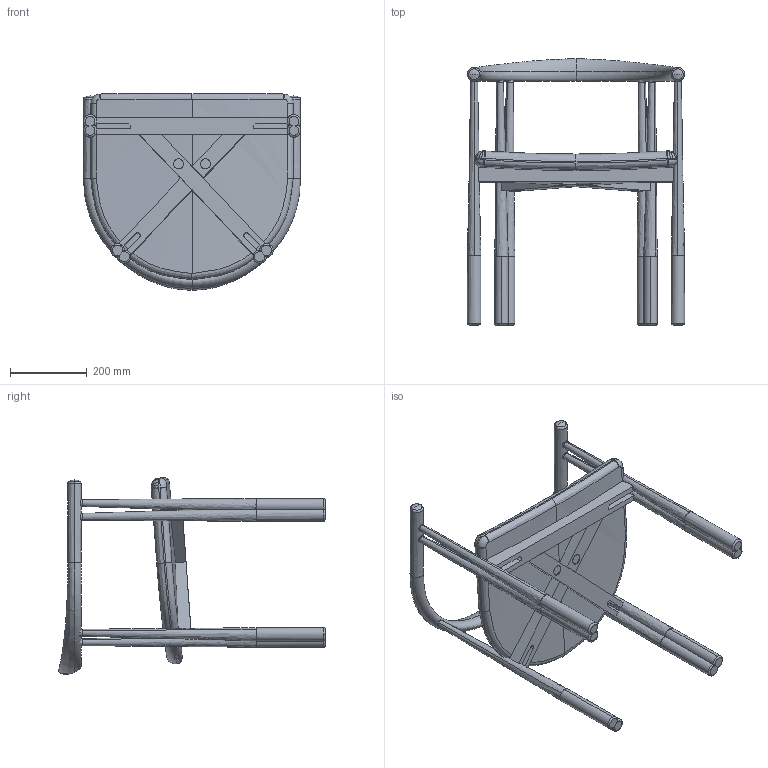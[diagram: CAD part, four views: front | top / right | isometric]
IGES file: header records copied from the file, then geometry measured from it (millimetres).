
Start section: SolidWorks IGES file using analytic representation for surfaces
Global section: file name: R:\Box Sync\Jason Miller\050 Elliot Dining Chair\sales related\3D IGES\Sales Related_050 Elliot Chair_ vc _GA.IGS; native system: SolidWorks 2016; preprocessor: SolidWorks 2016; author: ruben; date: 180226.180845; units: millimetre
Bounding box: 565 x 693.45 x 511.17 mm (x, y, z)
Volume: 14831408.4 mm3; surface area: 1278614.7 mm2
Topology: 9 solids, 9 shells, 240 faces, 620 edges, 375 vertices
Faces by surface type: revolution 105, bspline 69, plane 66
